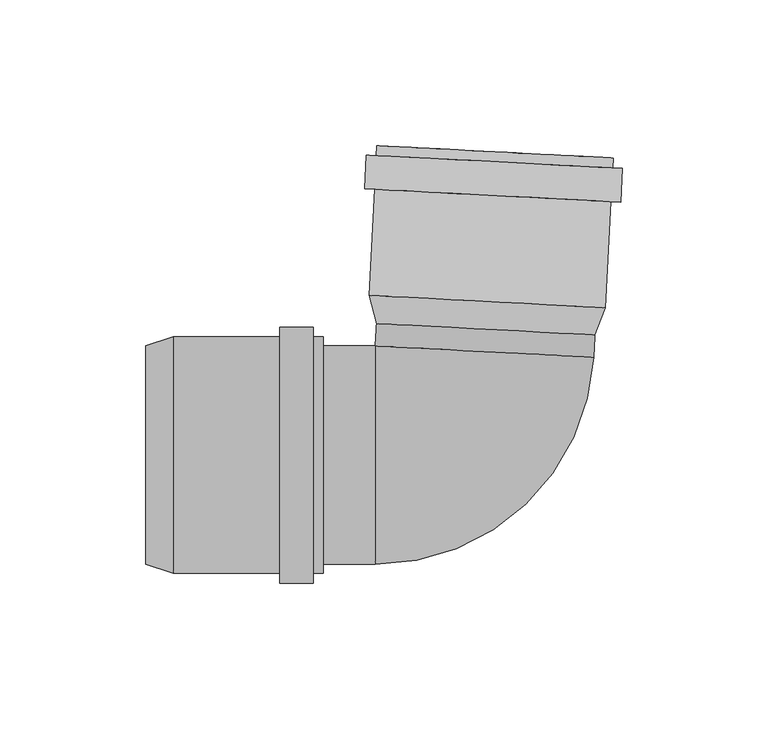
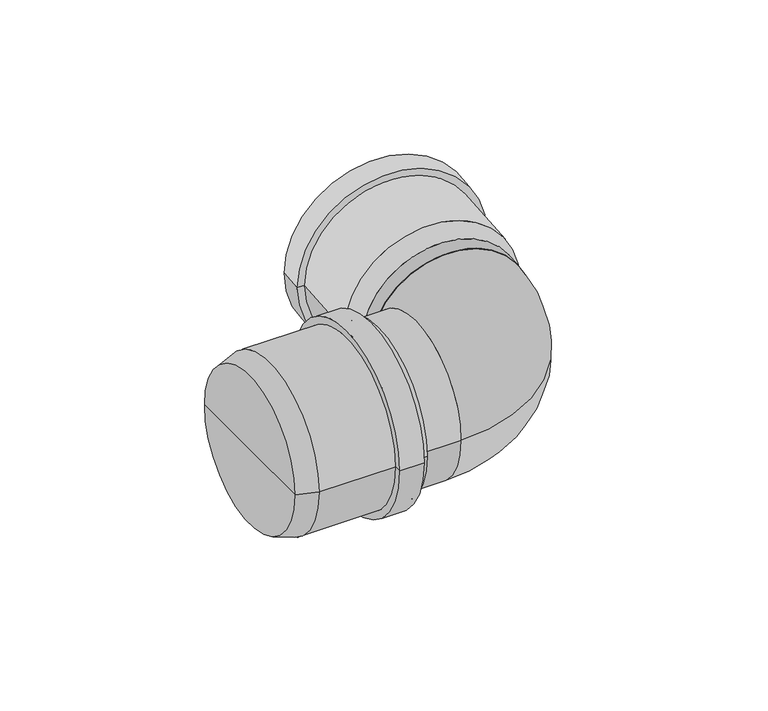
"""IFC4 building model written with IfcOpenShell, lengths in millimetres: pipe fitting geometry, pf_HTB : pf_HTB."""

from ifc_helpers import new_model, si_unit, point, frame, origin, origin_2d, place, context, project, spatial, polyline, circle_curve, ellipse_curve, trimmed, segment, composite_curve, outline, extrude, source, transform, mapped, element, save
from ifc_brep_helpers import plane_surface, cylinder_surface, revolved_surface, advanced_brep


def pipe_fitting_34a3104b(model_context):
    return source(origin(), model_context, "Body", "SolidModel", [
        advanced_brep(
        [(39.7147545, 41.2780605, 0.0), (-35.1824606, 45.2032572, 0.0), (-37.7810206, 54.8524793, 0.0), (43.3076976, 50.6027996, 0.0), (2.2661469, 43.2406589, 0.0), (46.0029993, 102.0322207, 0.0), (-35.0857189, 106.2819003, 0.0), (-31.9899673, 106.1196588, 0.0), (42.9072478, 102.1944621, 0.0), (45.8250571, 98.6368802, 0.0), (-35.2636611, 102.8865599, 0.0), (49.2203975, 98.458938, 0.0), (-38.6590015, 103.0645021, 0.0), (48.6133004, 86.8748354, 0.0), (-39.2660986, 91.4803995, 0.0), (45.21796, 87.0527776, 0.0), (-35.8707582, 91.3024573, 0.0), (40.211946, 50.7650411, 0.0), (-34.6852691, 54.6902378, 0.0), (2.7633385, 52.7276394, 0.0)],
        [
            (0, 1, circle_curve(frame((2.2661469, 43.2406589, 0.0), z_axis=(0.05233595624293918, 0.9986295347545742, 0.0), x_axis=(-0.9986295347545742, 0.05233595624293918, 0.0)), 37.5)),
            (1, 2),
            (2, 3, circle_curve(frame((2.7633385, 52.7276394, 0.0), z_axis=(-0.05233595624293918, -0.9986295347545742, 0.0), x_axis=(-0.9986295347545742, 0.05233595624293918, 0.0)), 40.6)),
            (3, 0),
            (1, 0, circle_curve(frame((2.2661469, 43.2406589, 0.0), z_axis=(0.05233595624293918, 0.9986295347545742, 0.0), x_axis=(-0.9986295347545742, 0.05233595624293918, 0.0)), 37.5)),
            (3, 2, circle_curve(frame((2.7633385, 52.7276394, 0.0), z_axis=(-0.05233595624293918, -0.9986295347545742, 0.0), x_axis=(-0.9986295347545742, 0.05233595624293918, 0.0)), 40.6)),
            (4, 1),
            (0, 4),
            (5, 6, circle_curve(frame((5.4586402, 104.1570605, 0.0), z_axis=(0.05233595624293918, 0.9986295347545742, 0.0), x_axis=(-0.9986295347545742, 0.05233595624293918, 0.0)), 40.6)),
            (6, 7),
            (7, 8, circle_curve(frame((5.4586402, 104.1570605, 0.0), z_axis=(-0.05233595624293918, -0.9986295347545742, 0.0), x_axis=(-0.9986295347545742, 0.05233595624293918, 0.0)), 37.5)),
            (8, 5),
            (6, 5, circle_curve(frame((5.4586402, 104.1570605, 0.0), z_axis=(0.05233595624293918, 0.9986295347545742, 0.0), x_axis=(-0.9986295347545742, 0.05233595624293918, 0.0)), 40.6)),
            (8, 7, circle_curve(frame((5.4586402, 104.1570605, 0.0), z_axis=(-0.05233595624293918, -0.9986295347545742, 0.0), x_axis=(-0.9986295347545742, 0.05233595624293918, 0.0)), 37.5)),
            (9, 10, circle_curve(frame((5.280698, 100.7617201, 0.0), z_axis=(0.05233595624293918, 0.9986295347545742, 0.0), x_axis=(-0.9986295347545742, 0.05233595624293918, 0.0)), 40.6)),
            (10, 6),
            (5, 9),
            (10, 9, circle_curve(frame((5.280698, 100.7617201, 0.0), z_axis=(0.05233595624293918, 0.9986295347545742, 0.0), x_axis=(-0.9986295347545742, 0.05233595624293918, 0.0)), 40.6)),
            (11, 12, circle_curve(frame((5.280698, 100.7617201, 0.0), z_axis=(0.05233595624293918, 0.9986295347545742, 0.0), x_axis=(-0.9986295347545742, 0.05233595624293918, 0.0)), 44.0)),
            (12, 10),
            (9, 11),
            (12, 11, circle_curve(frame((5.280698, 100.7617201, 0.0), z_axis=(0.05233595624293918, 0.9986295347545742, 0.0), x_axis=(-0.9986295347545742, 0.05233595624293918, 0.0)), 44.0)),
            (13, 14, circle_curve(frame((4.6736009, 89.1776175, 0.0), z_axis=(0.05233595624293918, 0.9986295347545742, 0.0), x_axis=(-0.9986295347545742, 0.05233595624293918, 0.0)), 44.0)),
            (14, 12),
            (11, 13),
            (14, 13, circle_curve(frame((4.6736009, 89.1776175, 0.0), z_axis=(0.05233595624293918, 0.9986295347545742, 0.0), x_axis=(-0.9986295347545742, 0.05233595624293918, 0.0)), 44.0)),
            (15, 16, circle_curve(frame((4.6736009, 89.1776175, 0.0), z_axis=(0.05233595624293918, 0.9986295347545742, 0.0), x_axis=(-0.9986295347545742, 0.05233595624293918, 0.0)), 40.6)),
            (16, 14),
            (13, 15),
            (16, 15, circle_curve(frame((4.6736009, 89.1776175, 0.0), z_axis=(0.05233595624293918, 0.9986295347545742, 0.0), x_axis=(-0.9986295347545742, 0.05233595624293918, 0.0)), 40.6)),
            (2, 16),
            (15, 3),
            (17, 18, circle_curve(frame((2.7633385, 52.7276394, 0.0), z_axis=(0.05233595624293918, 0.9986295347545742, 0.0), x_axis=(-0.9986295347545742, 0.05233595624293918, 0.0)), 37.5)),
            (18, 19),
            (19, 17),
            (18, 17, circle_curve(frame((2.7633385, 52.7276394, 0.0), z_axis=(0.05233595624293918, 0.9986295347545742, 0.0), x_axis=(-0.9986295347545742, 0.05233595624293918, 0.0)), 37.5)),
            (7, 18),
            (17, 8),
        ],
        [
            revolved_surface(polyline([(-37.7810206, 54.8524793, 0.0), (-35.1824606, 45.2032572, 0.0)]), (2.2661469, 43.2406589, 0.0), (-0.05233595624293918, -0.9986295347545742, 0.0)),
            plane_surface(frame((2.2661469, 43.2406589, 0.0), z_axis=(-0.05233595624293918, -0.9986295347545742, 0.0), x_axis=(-0.9986295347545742, 0.05233595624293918, 0.0))),
            plane_surface(frame((5.4586402, 104.1570605, 0.0), z_axis=(0.05233595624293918, 0.9986295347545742, 0.0), x_axis=(-0.9986295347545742, 0.05233595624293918, 0.0))),
            cylinder_surface(frame((2.2661469, 43.2406589, 0.0), z_axis=(-0.05233595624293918, -0.9986295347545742, 0.0), x_axis=(-0.9986295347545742, 0.05233595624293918, 0.0)), 40.6),
            plane_surface(frame((5.280698, 100.7617201, 0.0), z_axis=(0.05233595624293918, 0.9986295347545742, 0.0), x_axis=(-0.9986295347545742, 0.05233595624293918, 0.0))),
            cylinder_surface(frame((2.2661469, 43.2406589, 0.0), z_axis=(-0.05233595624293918, -0.9986295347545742, 0.0), x_axis=(-0.9986295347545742, 0.05233595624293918, 0.0)), 44.0),
            plane_surface(frame((4.6736009, 89.1776175, 0.0), z_axis=(-0.05233595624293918, -0.9986295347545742, 0.0), x_axis=(-0.9986295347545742, 0.05233595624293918, 0.0))),
            plane_surface(frame((2.7633385, 52.7276394, 0.0), z_axis=(0.05233595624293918, 0.9986295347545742, 0.0), x_axis=(-0.9986295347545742, 0.05233595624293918, 0.0))),
            revolved_surface(polyline([(-34.68526907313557, 54.69023776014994, 0.0), (-31.989967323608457, 106.11965885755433, 0.0)]), (2.2661469, 43.2406589, 0.0), (-0.05233595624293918, -0.9986295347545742, 0.0)),
        ],
        [
            (0, [[1, 2, 3, 4]]),
            (0, [[5, -4, 6, -2]]),
            (1, [[7, -1, 8]]),
            (1, [[-8, -5, -7]]),
            (2, [[9, 10, 11, 12]]),
            (2, [[13, -12, 14, -10]]),
            (3, [[15, 16, -9, 17]]),
            (3, [[18, -17, -13, -16]]),
            (4, [[19, 20, -15, 21]]),
            (4, [[22, -21, -18, -20]]),
            (5, [[23, 24, -19, 25]]),
            (5, [[26, -25, -22, -24]]),
            (6, [[27, 28, -23, 29]]),
            (6, [[30, -29, -26, -28]]),
            (3, [[-3, 31, -27, 32]]),
            (3, [[-6, -32, -30, -31]]),
            (7, [[33, 34, 35]]),
            (7, [[36, -35, -34]]),
            (8, [[-11, 37, -33, 38]]),
            (8, [[-14, -38, -36, -37]]),
        ],
    ),
        advanced_brep(
        [(-114.5, -37.5, 0.0), (-114.5, 37.5, 0.0), (-105.0, 40.6, 0.0), (-105.0, -40.6, 0.0), (-114.5, 0.0, 0.0), (-53.5, -40.6, 0.0), (-53.5, 40.6, 0.0), (-53.5, 37.5, 0.0), (-53.5, -37.5, 0.0), (-56.9, -40.6, 0.0), (-56.9, 40.6, 0.0), (-56.9, -44.0, 0.0), (-56.9, 44.0, 0.0), (-68.5, -44.0, 0.0), (-68.5, 44.0, 0.0), (-68.5, -40.6, 0.0), (-68.5, 40.6, 0.0), (-105.0, -37.5, 0.0), (-105.0, 37.5, 0.0), (-105.0, 0.0, 0.0)],
        [
            (0, 1, circle_curve(frame((-114.5, 0.0, 0.0), z_axis=(1.0, 0.0, 0.0), x_axis=(0.0, 1.0, 0.0)), 37.5)),
            (1, 2),
            (2, 3, circle_curve(frame((-105.0, 0.0, 0.0), z_axis=(-1.0, 0.0, 0.0), x_axis=(0.0, 1.0, 0.0)), 40.6)),
            (3, 0),
            (1, 0, circle_curve(frame((-114.5, 0.0, 0.0), z_axis=(1.0, 0.0, 0.0), x_axis=(0.0, 1.0, 0.0)), 37.5)),
            (3, 2, circle_curve(frame((-105.0, 0.0, 0.0), z_axis=(-1.0, 0.0, 0.0), x_axis=(0.0, 1.0, 0.0)), 40.6)),
            (4, 1),
            (0, 4),
            (5, 6, circle_curve(frame((-53.5, 0.0, 0.0), z_axis=(1.0, 0.0, 0.0), x_axis=(0.0, 1.0, 0.0)), 40.6)),
            (6, 7),
            (7, 8, circle_curve(frame((-53.5, 0.0, 0.0), z_axis=(-1.0, 0.0, 0.0), x_axis=(0.0, 1.0, 0.0)), 37.5)),
            (8, 5),
            (6, 5, circle_curve(frame((-53.5, 0.0, 0.0), z_axis=(1.0, 0.0, 0.0), x_axis=(0.0, 1.0, 0.0)), 40.6)),
            (8, 7, circle_curve(frame((-53.5, 0.0, 0.0), z_axis=(-1.0, 0.0, 0.0), x_axis=(0.0, 1.0, 0.0)), 37.5)),
            (9, 10, circle_curve(frame((-56.9, 0.0, 0.0), z_axis=(1.0, 0.0, 0.0), x_axis=(0.0, 1.0, 0.0)), 40.6)),
            (10, 6),
            (5, 9),
            (10, 9, circle_curve(frame((-56.9, 0.0, 0.0), z_axis=(1.0, 0.0, 0.0), x_axis=(0.0, 1.0, 0.0)), 40.6)),
            (11, 12, circle_curve(frame((-56.9, 0.0, 0.0), z_axis=(1.0, 0.0, 0.0), x_axis=(0.0, 1.0, 0.0)), 44.0)),
            (12, 10),
            (9, 11),
            (12, 11, circle_curve(frame((-56.9, 0.0, 0.0), z_axis=(1.0, 0.0, 0.0), x_axis=(0.0, 1.0, 0.0)), 44.0)),
            (13, 14, circle_curve(frame((-68.5, 0.0, 0.0), z_axis=(1.0, 0.0, 0.0), x_axis=(0.0, 1.0, 0.0)), 44.0)),
            (14, 12),
            (11, 13),
            (14, 13, circle_curve(frame((-68.5, 0.0, 0.0), z_axis=(1.0, 0.0, 0.0), x_axis=(0.0, 1.0, 0.0)), 44.0)),
            (15, 16, circle_curve(frame((-68.5, 0.0, 0.0), z_axis=(1.0, 0.0, 0.0), x_axis=(0.0, 1.0, 0.0)), 40.6)),
            (16, 14),
            (13, 15),
            (16, 15, circle_curve(frame((-68.5, 0.0, 0.0), z_axis=(1.0, 0.0, 0.0), x_axis=(0.0, 1.0, 0.0)), 40.6)),
            (2, 16),
            (15, 3),
            (17, 18, circle_curve(frame((-105.0, 0.0, 0.0), z_axis=(1.0, 0.0, 0.0), x_axis=(0.0, 1.0, 0.0)), 37.5)),
            (18, 19),
            (19, 17),
            (18, 17, circle_curve(frame((-105.0, 0.0, 0.0), z_axis=(1.0, 0.0, 0.0), x_axis=(0.0, 1.0, 0.0)), 37.5)),
            (7, 18),
            (17, 8),
        ],
        [
            revolved_surface(polyline([(-105.0, 40.6, 0.0), (-114.5, 37.5, 0.0)]), (-114.5, 0.0, 0.0), (-1.0, 0.0, 0.0)),
            plane_surface(frame((-114.5, 0.0, 0.0), z_axis=(-1.0, 0.0, 0.0), x_axis=(0.0, 1.0, 0.0))),
            plane_surface(frame((-53.5, 0.0, 0.0), z_axis=(1.0, 0.0, 0.0), x_axis=(0.0, 1.0, 0.0))),
            cylinder_surface(frame((-114.5, 0.0, 0.0), z_axis=(-1.0, 0.0, 0.0), x_axis=(0.0, 1.0, 0.0)), 40.6),
            plane_surface(frame((-56.9, 0.0, 0.0), z_axis=(1.0, 0.0, 0.0), x_axis=(0.0, 1.0, 0.0))),
            cylinder_surface(frame((-114.5, 0.0, 0.0), z_axis=(-1.0, 0.0, 0.0), x_axis=(0.0, 1.0, 0.0)), 44.0),
            plane_surface(frame((-68.5, 0.0, 0.0), z_axis=(-1.0, 0.0, 0.0), x_axis=(0.0, 1.0, 0.0))),
            plane_surface(frame((-105.0, 0.0, 0.0), z_axis=(1.0, 0.0, 0.0), x_axis=(0.0, 1.0, 0.0))),
            revolved_surface(polyline([(-105.0, 37.5, 0.0), (-53.5, 37.5, 0.0)]), (-114.5, 0.0, 0.0), (-1.0, 0.0, 0.0)),
        ],
        [
            (0, [[1, 2, 3, 4]]),
            (0, [[5, -4, 6, -2]]),
            (1, [[7, -1, 8]]),
            (1, [[-8, -5, -7]]),
            (2, [[9, 10, 11, 12]]),
            (2, [[13, -12, 14, -10]]),
            (3, [[15, 16, -9, 17]]),
            (3, [[18, -17, -13, -16]]),
            (4, [[19, 20, -15, 21]]),
            (4, [[22, -21, -18, -20]]),
            (5, [[23, 24, -19, 25]]),
            (5, [[26, -25, -22, -24]]),
            (6, [[27, 28, -23, 29]]),
            (6, [[30, -29, -26, -28]]),
            (3, [[-3, 31, -27, 32]]),
            (3, [[-6, -32, -30, -31]]),
            (7, [[33, 34, 35]]),
            (7, [[36, -35, -34]]),
            (8, [[-11, 37, -33, 38]]),
            (8, [[-14, -38, -36, -37]]),
        ],
    ),
        extrude(outline(composite_curve([segment(trimmed(circle_curve(origin_2d(), 37.5), [point((0.0, -37.5))], [point((0.0, 37.5))], False, "CARTESIAN"), True, "CONTINUOUS"), segment(trimmed(circle_curve(origin_2d(), 37.5), [point((0.0, 37.5))], [point((0.0, -37.5))], False, "CARTESIAN"), True, "CONTINUOUS")], self_intersect=False)), frame((1.8624363, 35.5374016, 0.0), z_axis=(0.052335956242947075, 0.9986295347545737, 0.0), x_axis=(0.0, 0.0, 1.0)), (0.0, 0.0, 1.0), 17.2138287),
        extrude(outline(composite_curve([segment(trimmed(circle_curve(origin_2d(), 37.5), [point((-37.5, 0.0))], [point((37.5, 0.0))], False, "CARTESIAN"), True, "CONTINUOUS"), segment(trimmed(circle_curve(origin_2d(), 37.5), [point((37.5, 0.0))], [point((-37.5, 0.0))], False, "CARTESIAN"), True, "CONTINUOUS")], self_intersect=False)), frame((-105.0, 0.0, 0.0), z_axis=(1.0, 0.0, 0.0), x_axis=(0.0, 1.0, 0.0)), (0.0, 0.0, 1.0), 69.4138287),
        advanced_brep(
        [(-35.5861713, -37.5, 0.0), (-35.5861713, 37.5, 0.0), (39.3110439, 33.5748033, 0.0)],
        [
            (0, 1, circle_curve(frame((-35.5861713, 0.0, 0.0), z_axis=(-1.0, 0.0, 0.0), x_axis=(0.0, 1.0, 0.0)), 37.5)),
            (1, 0, circle_curve(frame((-35.5861713, 0.0, 0.0), z_axis=(-1.0, 0.0, 0.0), x_axis=(0.0, 1.0, 0.0)), 37.5)),
            (2, 1, circle_curve(frame((1.8624363, 35.5374016, 0.0), z_axis=(0.05233595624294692, 0.9986295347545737, 0.0), x_axis=(-0.9986295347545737, 0.05233595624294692, 0.0)), 37.5)),
            (1, 2, circle_curve(frame((1.8624363, 35.5374016, 0.0), z_axis=(0.05233595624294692, 0.9986295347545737, 0.0), x_axis=(-0.9986295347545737, 0.05233595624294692, 0.0)), 37.5)),
            (2, 0, circle_curve(frame((-35.5861713, 37.5, 0.0), z_axis=(0.0, 0.0, -1.0), x_axis=(0.0, -1.0, 0.0)), 75.0)),
        ],
        [
            plane_surface(frame((-35.5861713, 37.5, -14.8), z_axis=(-1.0, 0.0, 0.0), x_axis=(0.0, -1.0, 0.0))),
            plane_surface(frame((-35.5861713, 37.5, -14.8), z_axis=(0.052335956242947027, 0.9986295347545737, 0.0), x_axis=(0.9986295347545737, -0.052335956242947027, 0.0))),
            revolved_surface(trimmed(ellipse_curve(frame((-35.5861713, 0.0, 0.0), z_axis=(1.0, 0.0, 0.0), x_axis=(0.0, 1.0, 0.0)), 37.5, 37.5), [point((-35.5861713, -37.5, 0.0))], [point((-35.5861713, 37.5, 0.0))], True, "CARTESIAN"), (-35.5861713, 37.5, -14.8), (0.0, 0.0, -1.0)),
            revolved_surface(trimmed(ellipse_curve(frame((-35.5861713, 0.0, 0.0), z_axis=(1.0, 0.0, 0.0), x_axis=(0.0, 1.0, 0.0)), 37.5, 37.5), [point((-35.5861713, 37.5, 0.0))], [point((-35.5861713, -37.5, 0.0))], True, "CARTESIAN"), (-35.5861713, 37.5, -14.8), (0.0, 0.0, -1.0)),
        ],
        [
            (0, [[1, 2]]),
            (1, [[3, 4]]),
            (2, [[5, -2, -3]]),
            (3, [[-1, -5, -4]]),
        ],
    ),
    ])


if __name__ == "__main__":
    model = new_model("IFC4")
    model_context = context("Model", 3, world=origin())
    ifc_project = project(units=[si_unit("LENGTHUNIT", "METRE", prefix="MILLI")], contexts=[model_context])
    site = spatial("IfcSite", under=ifc_project)
    building = spatial("IfcBuilding", under=site)
    placement = place(None, origin())
    pipe_fitting_shape = pipe_fitting_34a3104b(model_context)
    element("IfcPipeFitting", 1, ObjectType="pf_HTB : pf_HTB", at=placement, inside=building, context=model_context, shape_type="MappedRepresentation", body=[
        mapped(pipe_fitting_shape, transform((0.0, 0.0, 0.0), x_axis=(1.0, 0.0, 0.0), y_axis=(0.0, 1.0, 0.0), z_axis=(0.0, 0.0, 1.0))),
    ])
    save(model, "model.ifc")
